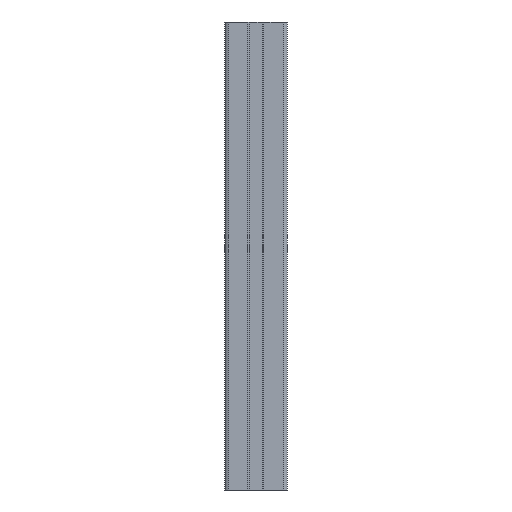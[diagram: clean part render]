
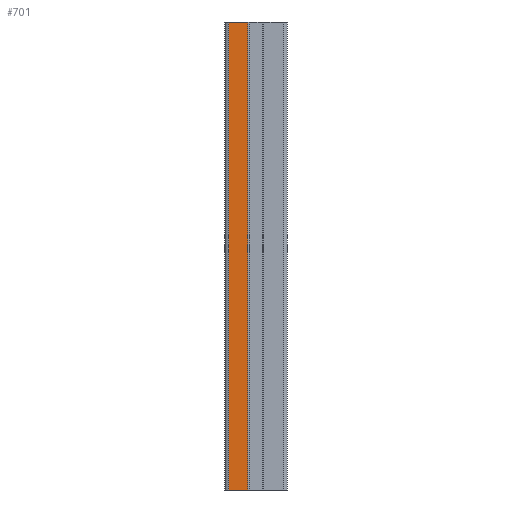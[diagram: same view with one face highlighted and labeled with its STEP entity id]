
A CAD part, left-side view. The second image highlights one B-rep face of the part: STEP entity #701.
In plain terms, the highlighted planar face has unit normal (-1, 0, 0).
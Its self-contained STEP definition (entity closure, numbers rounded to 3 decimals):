
#21 = CARTESIAN_POINT ( 'NONE',  ( -20., 5.1, -150. ) ) ;
#86 = ORIENTED_EDGE ( 'NONE', *, *, #986, .F. ) ;
#414 = DIRECTION ( 'NONE',  ( 0., -1., 0. ) ) ;
#430 = DIRECTION ( 'NONE',  ( 0., 0., -1. ) ) ;
#438 = ORIENTED_EDGE ( 'NONE', *, *, #2300, .F. ) ;
#533 = VECTOR ( 'NONE', #414, 1000. ) ;
#534 = DIRECTION ( 'NONE',  ( 0., 0., -1. ) ) ;
#662 = CARTESIAN_POINT ( 'NONE',  ( -20., 17.417, 150. ) ) ;
#676 = CARTESIAN_POINT ( 'NONE',  ( -20., 17.417, 150. ) ) ;
#701 = ADVANCED_FACE ( 'NONE', ( #2160 ), #2184, .F. ) ;
#736 = LINE ( 'NONE', #676, #1487 ) ;
#780 = CARTESIAN_POINT ( 'NONE',  ( -20., 5.1, 150. ) ) ;
#870 = VECTOR ( 'NONE', #1576, 1000. ) ;
#912 = VERTEX_POINT ( 'NONE', #1376 ) ;
#920 = LINE ( 'NONE', #662, #533 ) ;
#958 = VERTEX_POINT ( 'NONE', #21 ) ;
#986 = EDGE_CURVE ( 'NONE', #1598, #1612, #920, .T. ) ;
#1213 = CARTESIAN_POINT ( 'NONE',  ( -20., 5.1, 150. ) ) ;
#1376 = CARTESIAN_POINT ( 'NONE',  ( -20., 17.417, -150. ) ) ;
#1387 = ORIENTED_EDGE ( 'NONE', *, *, #2429, .T. ) ;
#1404 = DIRECTION ( 'NONE',  ( 0., 0., -1. ) ) ;
#1460 = EDGE_LOOP ( 'NONE', ( #2192, #438, #86, #1387 ) ) ;
#1487 = VECTOR ( 'NONE', #430, 1000. ) ;
#1576 = DIRECTION ( 'NONE',  ( 0., -1., 0. ) ) ;
#1598 = VERTEX_POINT ( 'NONE', #1724 ) ;
#1612 = VERTEX_POINT ( 'NONE', #1213 ) ;
#1664 = DIRECTION ( 'NONE',  ( 1., 0., 0. ) ) ;
#1724 = CARTESIAN_POINT ( 'NONE',  ( -20., 17.417, 150. ) ) ;
#1829 = CARTESIAN_POINT ( 'NONE',  ( -20., 17.417, -150. ) ) ;
#1855 = EDGE_CURVE ( 'NONE', #912, #958, #2086, .T. ) ;
#1921 = CARTESIAN_POINT ( 'NONE',  ( -20., 17.417, 150. ) ) ;
#2056 = LINE ( 'NONE', #780, #2060 ) ;
#2060 = VECTOR ( 'NONE', #534, 1000. ) ;
#2086 = LINE ( 'NONE', #1829, #870 ) ;
#2120 = AXIS2_PLACEMENT_3D ( 'NONE', #1921, #1664, #1404 ) ;
#2160 = FACE_OUTER_BOUND ( 'NONE', #1460, .T. ) ;
#2184 = PLANE ( 'NONE',  #2120 ) ;
#2192 = ORIENTED_EDGE ( 'NONE', *, *, #1855, .T. ) ;
#2300 = EDGE_CURVE ( 'NONE', #1612, #958, #2056, .T. ) ;
#2429 = EDGE_CURVE ( 'NONE', #1598, #912, #736, .T. ) ;
